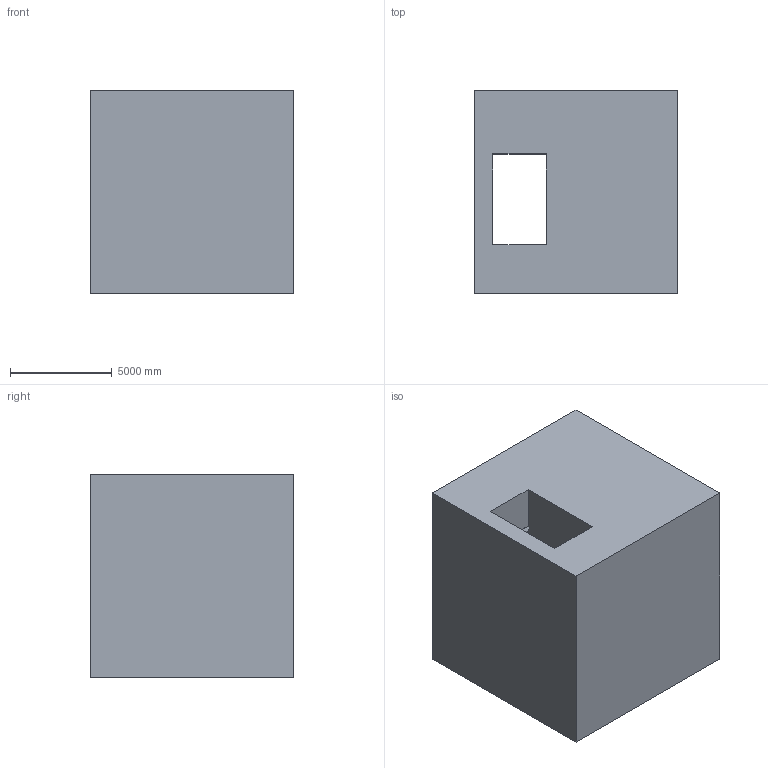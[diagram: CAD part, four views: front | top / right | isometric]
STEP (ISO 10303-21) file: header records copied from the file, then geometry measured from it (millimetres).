
FILE_DESCRIPTION (( 'STEP AP203' ), '1' );
FILE_NAME ('116.STEP', '2022-09-06T15:07:20', ( 'user' ), ( '' ), 'SwSTEP 2.0', 'SolidWorks 2021', '' );
FILE_SCHEMA (( 'CONFIG_CONTROL_DESIGN' ));
Length unit declared in the file: centimetre
Products named in the file (1): 116
Bounding box: 10000 x 10000 x 10000 mm (x, y, z)
Volume: 853063138231.7 mm3; surface area: 772210373.8 mm2
Topology: 1 solids, 1 shells, 17 faces, 48 edges, 32 vertices
Faces by surface type: plane 17
Entity records: 627 total; most frequent: CARTESIAN_POINT 98, ORIENTED_EDGE 96, DIRECTION 84, VECTOR 48, EDGE_CURVE 48, LINE 48, VERTEX_POINT 32, EDGE_LOOP 20
